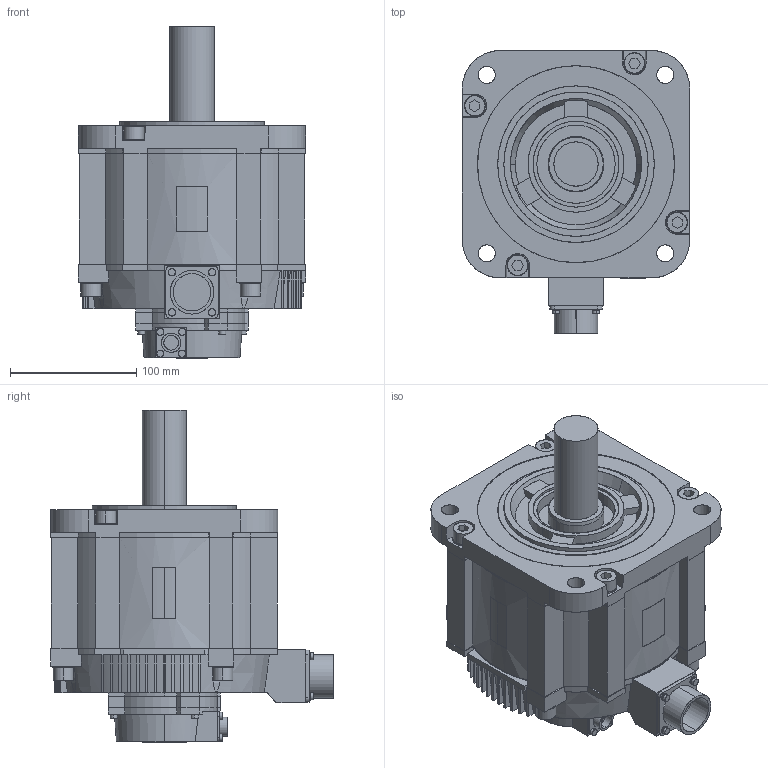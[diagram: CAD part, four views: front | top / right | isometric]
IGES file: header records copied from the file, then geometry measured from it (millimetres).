
Start section: SolidWorks IGES file using analytic representation for surfaces
Global section: file name: D:\YASKAWA\sgm7g_44__a21.IGS; native system: SolidWorks 2006 by SolidWorks Corporation; preprocessor: SolidWorks 2006 by SolidWorks Corporation; author: yamanouchi; date: 140507.140905; units: millimetre
Bounding box: 180 x 223.85 x 263.1 mm (x, y, z)
Surface area: 231486.1 mm2 (no closed solid volume)
Topology: 0 solids, 0 shells, 715 faces, 9306 edges, 9306 vertices
Faces by surface type: bspline 432, revolution 283
